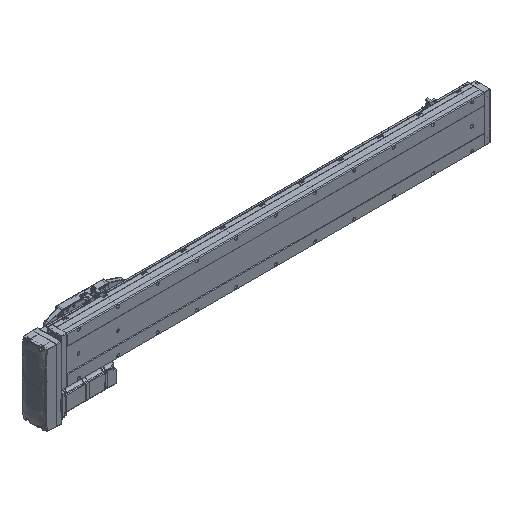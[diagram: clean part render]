
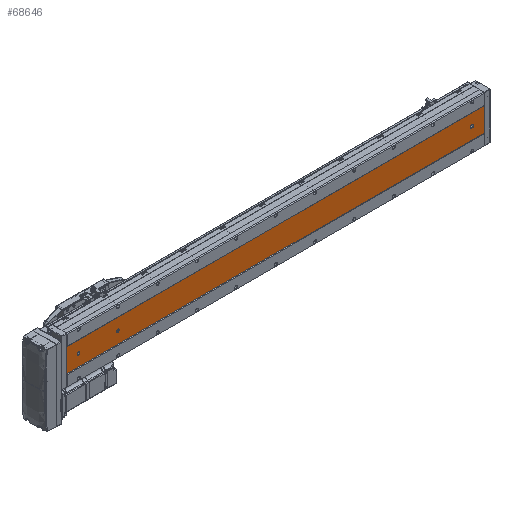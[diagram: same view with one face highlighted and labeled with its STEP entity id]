
A CAD part, isometric view. The second image highlights one B-rep face of the part: STEP entity #68646.
In plain terms, the highlighted planar face has unit normal (0, -1, 0).
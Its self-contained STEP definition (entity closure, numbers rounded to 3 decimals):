
#118 = EDGE_CURVE ( 'NONE', #7791, #64630, #1470, .T. ) ;
#624 = ORIENTED_EDGE ( 'NONE', *, *, #64319, .F. ) ;
#1470 = CIRCLE ( 'NONE', #8125, 3.5 ) ;
#2555 = DIRECTION ( 'NONE',  ( 0., 0., 1. ) ) ;
#3622 = DIRECTION ( 'NONE',  ( 0., 0., 1. ) ) ;
#3674 = VECTOR ( 'NONE', #14033, 1000. ) ;
#5278 = DIRECTION ( 'NONE',  ( 0., 0., 1. ) ) ;
#5831 = AXIS2_PLACEMENT_3D ( 'NONE', #38908, #71783, #45003 ) ;
#7189 = FACE_OUTER_BOUND ( 'NONE', #27011, .T. ) ;
#7521 = CARTESIAN_POINT ( 'NONE',  ( -36.392, -52.848, 30. ) ) ;
#7791 = VERTEX_POINT ( 'NONE', #13411 ) ;
#8125 = AXIS2_PLACEMENT_3D ( 'NONE', #38444, #71318, #5278 ) ;
#10064 = ORIENTED_EDGE ( 'NONE', *, *, #39091, .T. ) ;
#11462 = EDGE_CURVE ( 'NONE', #15272, #78465, #48442, .T. ) ;
#12689 = CARTESIAN_POINT ( 'NONE',  ( -39.892, -52.848, 30. ) ) ;
#13090 = LINE ( 'NONE', #53891, #3674 ) ;
#13411 = CARTESIAN_POINT ( 'NONE',  ( -39.892, -52.848, 934.5 ) ) ;
#13637 = CARTESIAN_POINT ( 'NONE',  ( -39.892, -52.848, 931. ) ) ;
#14033 = DIRECTION ( 'NONE',  ( 0., 0., -1. ) ) ;
#15210 = EDGE_CURVE ( 'NONE', #43612, #57362, #52908, .T. ) ;
#15272 = VERTEX_POINT ( 'NONE', #73179 ) ;
#16706 = CARTESIAN_POINT ( 'NONE',  ( -39.892, -52.848, 30. ) ) ;
#16748 = CARTESIAN_POINT ( 'NONE',  ( -39.892, -52.848, 1027.5 ) ) ;
#16939 = CARTESIAN_POINT ( 'NONE',  ( -39.892, -52.848, 1031. ) ) ;
#18480 = ORIENTED_EDGE ( 'NONE', *, *, #53117, .T. ) ;
#18485 = DIRECTION ( 'NONE',  ( 0., 0., -1. ) ) ;
#18703 = ORIENTED_EDGE ( 'NONE', *, *, #52454, .T. ) ;
#19997 = ORIENTED_EDGE ( 'NONE', *, *, #80211, .T. ) ;
#21390 = AXIS2_PLACEMENT_3D ( 'NONE', #16706, #83245, #3622 ) ;
#23223 = EDGE_LOOP ( 'NONE', ( #10064, #39615 ) ) ;
#23614 = ORIENTED_EDGE ( 'NONE', *, *, #11462, .T. ) ;
#24686 = EDGE_CURVE ( 'NONE', #60472, #50484, #67166, .T. ) ;
#25257 = CARTESIAN_POINT ( 'NONE',  ( -69.892, -52.848, 1061. ) ) ;
#27011 = EDGE_LOOP ( 'NONE', ( #23614, #624, #43113, #71297 ) ) ;
#30712 = EDGE_LOOP ( 'NONE', ( #19997, #80774 ) ) ;
#30741 = DIRECTION ( 'NONE',  ( 0., 1., 0. ) ) ;
#32236 = AXIS2_PLACEMENT_3D ( 'NONE', #13637, #60197, #60467 ) ;
#33282 = AXIS2_PLACEMENT_3D ( 'NONE', #37097, #30741, #83538 ) ;
#34036 = EDGE_LOOP ( 'NONE', ( #18480, #69263, #47814, #18703, #55997 ) ) ;
#35230 = LINE ( 'NONE', #76396, #76797 ) ;
#35363 = DIRECTION ( 'NONE',  ( 0., 0., 1. ) ) ;
#36719 = DIRECTION ( 'NONE',  ( 0., 0., 1. ) ) ;
#37097 = CARTESIAN_POINT ( 'NONE',  ( -39.892, -52.848, 1031. ) ) ;
#38444 = CARTESIAN_POINT ( 'NONE',  ( -39.892, -52.848, 931. ) ) ;
#38579 = LINE ( 'NONE', #25257, #61466 ) ;
#38908 = CARTESIAN_POINT ( 'NONE',  ( -69.892, -52.848, 1061. ) ) ;
#39091 = EDGE_CURVE ( 'NONE', #50484, #60472, #62095, .T. ) ;
#39207 = EDGE_CURVE ( 'NONE', #77234, #15272, #52668, .T. ) ;
#39436 = LINE ( 'NONE', #83824, #63341 ) ;
#39475 = FACE_BOUND ( 'NONE', #30712, .T. ) ;
#39615 = ORIENTED_EDGE ( 'NONE', *, *, #24686, .T. ) ;
#42585 = EDGE_CURVE ( 'NONE', #77234, #42615, #38579, .T. ) ;
#42615 = VERTEX_POINT ( 'NONE', #58108 ) ;
#43113 = ORIENTED_EDGE ( 'NONE', *, *, #42585, .F. ) ;
#43255 = VECTOR ( 'NONE', #71514, 1000. ) ;
#43612 = VERTEX_POINT ( 'NONE', #7521 ) ;
#45003 = DIRECTION ( 'NONE',  ( 0., 0., 1. ) ) ;
#45242 = AXIS2_PLACEMENT_3D ( 'NONE', #16939, #63470, #36719 ) ;
#46337 = EDGE_CURVE ( 'NONE', #62777, #71904, #50376, .T. ) ;
#47814 = ORIENTED_EDGE ( 'NONE', *, *, #76213, .T. ) ;
#47994 = CARTESIAN_POINT ( 'NONE',  ( -43.392, -52.848, 30. ) ) ;
#48442 = LINE ( 'NONE', #85083, #43255 ) ;
#50376 = CIRCLE ( 'NONE', #67778, 3.5 ) ;
#50484 = VERTEX_POINT ( 'NONE', #16748 ) ;
#52454 = EDGE_CURVE ( 'NONE', #77168, #62777, #35230, .T. ) ;
#52668 = LINE ( 'NONE', #58329, #81686 ) ;
#52908 = CIRCLE ( 'NONE', #82518, 3.5 ) ;
#53117 = EDGE_CURVE ( 'NONE', #71904, #43612, #39436, .T. ) ;
#53891 = CARTESIAN_POINT ( 'NONE',  ( -9.892, -52.848, 1061. ) ) ;
#53956 = CARTESIAN_POINT ( 'NONE',  ( -39.892, -52.848, 26.5 ) ) ;
#55997 = ORIENTED_EDGE ( 'NONE', *, *, #46337, .T. ) ;
#56408 = CARTESIAN_POINT ( 'NONE',  ( -43.392, -52.848, 32. ) ) ;
#57132 = FACE_BOUND ( 'NONE', #34036, .T. ) ;
#57362 = VERTEX_POINT ( 'NONE', #53956 ) ;
#57720 = DIRECTION ( 'NONE',  ( 0., 0., -1. ) ) ;
#58108 = CARTESIAN_POINT ( 'NONE',  ( -9.892, -52.848, 1061. ) ) ;
#58329 = CARTESIAN_POINT ( 'NONE',  ( -69.892, -52.848, 1061. ) ) ;
#59227 = DIRECTION ( 'NONE',  ( 0., 1., 0. ) ) ;
#60197 = DIRECTION ( 'NONE',  ( 0., 1., 0. ) ) ;
#60222 = CARTESIAN_POINT ( 'NONE',  ( -9.892, -52.848, 0. ) ) ;
#60467 = DIRECTION ( 'NONE',  ( 0., 0., 1. ) ) ;
#60472 = VERTEX_POINT ( 'NONE', #63935 ) ;
#61466 = VECTOR ( 'NONE', #84487, 1000. ) ;
#62095 = CIRCLE ( 'NONE', #33282, 3.5 ) ;
#62505 = CARTESIAN_POINT ( 'NONE',  ( -69.892, -52.848, 1061. ) ) ;
#62777 = VERTEX_POINT ( 'NONE', #56408 ) ;
#63341 = VECTOR ( 'NONE', #57720, 1000. ) ;
#63470 = DIRECTION ( 'NONE',  ( 0., 1., 0. ) ) ;
#63486 = CIRCLE ( 'NONE', #32236, 3.5 ) ;
#63935 = CARTESIAN_POINT ( 'NONE',  ( -39.892, -52.848, 1034.5 ) ) ;
#64319 = EDGE_CURVE ( 'NONE', #42615, #78465, #13090, .T. ) ;
#64630 = VERTEX_POINT ( 'NONE', #77575 ) ;
#65259 = CIRCLE ( 'NONE', #21390, 3.5 ) ;
#66238 = CARTESIAN_POINT ( 'NONE',  ( -36.392, -52.848, 32. ) ) ;
#67166 = CIRCLE ( 'NONE', #45242, 3.5 ) ;
#67778 = AXIS2_PLACEMENT_3D ( 'NONE', #68563, #75191, #35363 ) ;
#68563 = CARTESIAN_POINT ( 'NONE',  ( -39.892, -52.848, 32. ) ) ;
#68646 = ADVANCED_FACE ( 'NONE', ( #57132, #39475, #86197, #7189 ), #84789, .F. ) ;
#69263 = ORIENTED_EDGE ( 'NONE', *, *, #15210, .T. ) ;
#71297 = ORIENTED_EDGE ( 'NONE', *, *, #39207, .T. ) ;
#71318 = DIRECTION ( 'NONE',  ( 0., 1., 0. ) ) ;
#71514 = DIRECTION ( 'NONE',  ( 1., 0., 0. ) ) ;
#71783 = DIRECTION ( 'NONE',  ( 0., 1., 0. ) ) ;
#71904 = VERTEX_POINT ( 'NONE', #66238 ) ;
#73179 = CARTESIAN_POINT ( 'NONE',  ( -69.892, -52.848, 0. ) ) ;
#75191 = DIRECTION ( 'NONE',  ( 0., 1., 0. ) ) ;
#76213 = EDGE_CURVE ( 'NONE', #57362, #77168, #65259, .T. ) ;
#76396 = CARTESIAN_POINT ( 'NONE',  ( -43.392, -52.848, 1061. ) ) ;
#76797 = VECTOR ( 'NONE', #2555, 1000. ) ;
#77168 = VERTEX_POINT ( 'NONE', #47994 ) ;
#77234 = VERTEX_POINT ( 'NONE', #62505 ) ;
#77575 = CARTESIAN_POINT ( 'NONE',  ( -39.892, -52.848, 927.5 ) ) ;
#78465 = VERTEX_POINT ( 'NONE', #60222 ) ;
#80211 = EDGE_CURVE ( 'NONE', #64630, #7791, #63486, .T. ) ;
#80774 = ORIENTED_EDGE ( 'NONE', *, *, #118, .T. ) ;
#81686 = VECTOR ( 'NONE', #18485, 1000. ) ;
#82518 = AXIS2_PLACEMENT_3D ( 'NONE', #12689, #59227, #85878 ) ;
#83245 = DIRECTION ( 'NONE',  ( 0., 1., 0. ) ) ;
#83538 = DIRECTION ( 'NONE',  ( 0., 0., 1. ) ) ;
#83824 = CARTESIAN_POINT ( 'NONE',  ( -36.392, -52.848, 1061. ) ) ;
#84487 = DIRECTION ( 'NONE',  ( 1., 0., 0. ) ) ;
#84789 = PLANE ( 'NONE',  #5831 ) ;
#85083 = CARTESIAN_POINT ( 'NONE',  ( -69.892, -52.848, 0. ) ) ;
#85878 = DIRECTION ( 'NONE',  ( 0., 0., 1. ) ) ;
#86197 = FACE_BOUND ( 'NONE', #23223, .T. ) ;
